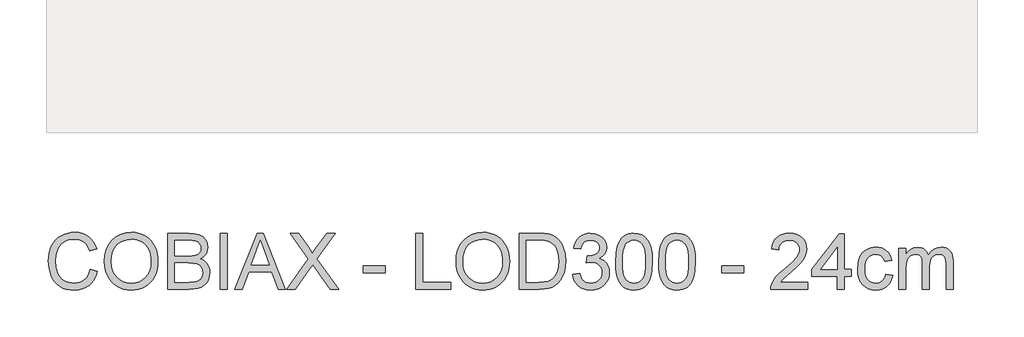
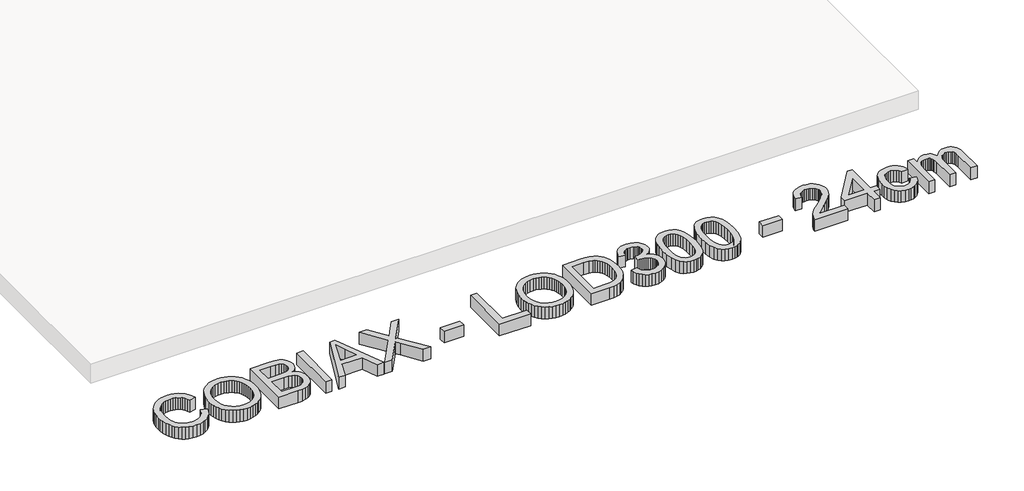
# One storey, part 7 of 18: 1 proxy.
"""IFC4 building model written with IfcOpenShell, lengths in millimetres."""

from ifc_helpers import new_model, si_unit, origin, origin_with_axes, place, context, project, spatial, polyline, outline, extrude, element, save

model = new_model("IFC4")

# Units and contexts
model_context = context("Model", 3, world=origin())
ifc_project = project(units=[si_unit("LENGTHUNIT", "METRE", prefix="MILLI")], contexts=[model_context])

# Site, building, storey
site = spatial("IfcSite", under=ifc_project)
building = spatial("IfcBuilding", under=site)
storey = spatial("IfcBuildingStorey", under=building, Name="COBIAX Slabs", Elevation=0.0)

# Proxy
placement = place(None, origin())
element("IfcBuildingElementProxy", 1, Name="600mm Arial", ObjectType="600mm Arial", at=placement, inside=storey, context=model_context, shape_type="SweptSolid", body=[
    extrude(outline(polyline([(-5201.7846047, -6620.9127725), (-5126.4423721, -6640.3369419), (-5141.35079, -6687.1913125), (-5161.2072206, -6728.13198), (-5186.0116642, -6763.1589445), (-5215.7641205, -6792.2722059), (-5249.7932051, -6815.1590645), (-5287.4275332, -6831.5068207), (-5328.6671048, -6841.3154744), (-5373.5119201, -6844.5850256), (-5419.4557827, -6842.1110192), (-5460.902288, -6834.6889999), (-5497.8514359, -6822.3189678), (-5530.3032264, -6805.0009229), (-5558.7037164, -6782.9923826), (-5583.4989629, -6756.5508642), (-5604.6889658, -6725.6763677), (-5622.2737252, -6690.3688932), (-5636.0830956, -6652.155151), (-5645.9469316, -6612.5618512), (-5651.8652332, -6571.588994), (-5653.8380004, -6529.2365793), (-5651.6077158, -6483.7939559), (-5644.916862, -6441.3495707), (-5633.765439, -6401.9034238), (-5618.1534469, -6365.4555151), (-5598.4303734, -6332.6082514), (-5574.9457065, -6303.9640396), (-5547.6994462, -6279.5228795), (-5516.6915926, -6259.2847713), (-5482.9752077, -6243.4152617), (-5447.6033539, -6232.0798977), (-5410.5760311, -6225.2786793), (-5371.8932393, -6223.0116065), (-5328.8004621, -6225.9454655), (-5289.2853373, -6234.7470422), (-5253.3478649, -6249.4163368), (-5220.9880449, -6269.9533491), (-5192.7393062, -6295.8154534), (-5169.1350776, -6326.4600236), (-5150.1753593, -6361.8870597), (-5135.8601512, -6402.0965618), (-5211.2023838, -6420.0492032), (-5223.0665781, -6390.420907), (-5237.3220054, -6365.1060272), (-5253.9686657, -6344.1045638), (-5273.006559, -6327.4165168), (-5294.5460498, -6314.7015953), (-5318.6975028, -6305.6195086), (-5345.4609179, -6300.1702565), (-5374.8362952, -6298.3538392), (-5408.6354535, -6300.3679931), (-5439.5467382, -6306.4104549), (-5467.5701492, -6316.4812245), (-5492.7056865, -6330.5803019), (-5514.6360519, -6348.0730908), (-5533.0439473, -6368.3249946), (-5547.9293725, -6391.3360134), (-5559.2923276, -6417.1061472), (-5573.6949077, -6472.2516583), (-5578.4957678, -6529.0894265), (-5572.8119909, -6598.6927), (-5565.7072699, -6629.9626696), (-5555.7606605, -6658.8781944), (-5542.8112142, -6684.8644589), (-5526.6979829, -6707.3466473), (-5507.4209663, -6726.3247597), (-5484.9801646, -6741.7987961), (-5460.4654281, -6753.8055448), (-5434.9666074, -6762.3817938), (-5408.4837022, -6767.5275432), (-5381.0167128, -6769.242793), (-5348.2614196, -6766.9067423), (-5318.1272857, -6759.8985903), (-5290.614311, -6748.218337), (-5265.7224955, -6731.8659823), (-5244.0404504, -6710.9151027), (-5226.1567869, -6685.4392745), (-5212.071505, -6655.4384978), (-5201.7846047, -6620.9127725)])), origin_with_axes(), (0.0, 0.0, 1.0), 150.0),
    extrude(outline(polyline([(-5051.1001395, -6541.7445672), (-5046.0785503, -6471.0468447), (-5031.0137825, -6408.4609203), (-5005.9058364, -6353.9867939), (-4989.5856714, -6329.7916549), (-4970.7547117, -6307.6244654), (-4927.6665331, -6270.6063397), (-4878.7474247, -6244.1648213), (-4823.9973868, -6228.2999102), (-4763.4164193, -6223.0116065), (-4722.8666263, -6225.49481), (-4684.3585785, -6232.9444204), (-4647.8922757, -6245.3604378), (-4613.467718, -6262.742862), (-4582.0505956, -6284.5674614), (-4554.6065988, -6310.310004), (-4531.1357275, -6339.9704899), (-4511.6379818, -6373.548919), (-4496.3156967, -6410.2819362), (-4485.3712073, -6449.4061864), (-4478.8045137, -6490.9216695), (-4476.6156158, -6534.8283857), (-4478.9194768, -6579.3145159), (-4485.8310598, -6621.3910191), (-4497.3503648, -6661.0578953), (-4513.4773917, -6698.3151443), (-4533.8304631, -6732.178682), (-4558.0279014, -6761.6644239), (-4586.0697064, -6786.7723701), (-4617.9558784, -6807.5025205), (-4652.4310198, -6823.7261165), (-4688.2397335, -6835.3143993), (-4725.3820195, -6842.267369), (-4763.8578777, -6844.5850256), (-4805.1158434, -6842.0236472), (-4844.129729, -6834.339512), (-4880.8995344, -6821.5326201), (-4915.4252597, -6803.6029713), (-4946.8055939, -6781.2449431), (-4974.1392261, -6755.1529126), (-4997.4261564, -6725.3268798), (-5016.6663847, -6691.7668448), (-5031.7311524, -6655.8201753), (-5042.4917008, -6618.8342393), (-5048.9480298, -6580.8090365), (-5051.1001395, -6541.7445672)]), holes=[polyline([(-4975.7579069, -6542.4803312), (-4971.9917149, -6592.4295091), (-4960.6931392, -6636.7684865), (-4941.8621795, -6675.4972636), (-4915.4988361, -6708.6158402), (-4883.4517158, -6735.140132), (-4847.5694257, -6754.0860548), (-4807.8519657, -6765.4536084), (-4764.299336, -6769.242793), (-4720.0017453, -6765.4168202), (-4679.8152359, -6753.938902), (-4643.7398077, -6734.8090382), (-4611.7754608, -6708.027229), (-4585.6052554, -6674.2096766), (-4566.9122515, -6633.9725834), (-4555.6964492, -6587.3159493), (-4551.9578484, -6534.2397745), (-4553.5581351, -6499.7600345), (-4558.3589951, -6467.5427687), (-4566.3604285, -6437.5879773), (-4577.5624353, -6409.8956601), (-4591.8408552, -6384.8291007), (-4609.0715282, -6362.7515824), (-4629.2544541, -6343.6631054), (-4652.3896331, -6327.5636696), (-4677.7596952, -6314.7843688), (-4704.6472705, -6305.6562968), (-4733.0523591, -6300.1794536), (-4762.9749609, -6298.3538392), (-4805.0146759, -6301.8717107), (-4844.0193644, -6312.4253255), (-4879.9890265, -6330.0146834), (-4912.9236621, -6354.6397844), (-4940.4136442, -6387.4870481), (-4960.0493457, -6429.7428937), (-4971.8307666, -6481.4073214), (-4975.7579069, -6542.4803312)])]), origin_with_axes(), (0.0, 0.0, 1.0), 150.0),
    extrude(outline(polyline([(-4373.020046, -6835.1672465), (-4373.020046, -6232.4293856), (-4143.0202226, -6232.4293856), (-4079.7629135, -6236.8623637), (-4030.3747557, -6250.1612978), (-4010.2975958, -6260.2182718), (-3992.5196984, -6272.6572818), (-3977.0410634, -6287.4783277), (-3963.8616909, -6304.6814095), (-3945.8170791, -6342.3525258), (-3939.8022085, -6381.7894757), (-3944.8605859, -6418.0810345), (-3960.0357182, -6452.2020895), (-3985.43797, -6482.0557135), (-4021.1777058, -6505.5449788), (-3998.438, -6515.2386694), (-3978.4850002, -6527.8386278), (-3961.3187066, -6543.3448538), (-3946.9391192, -6561.7573477), (-3935.576164, -6582.5150893), (-3927.4597675, -6605.0570585), (-3922.5899296, -6629.3832555), (-3920.9666503, -6655.4936801), (-3925.3996283, -6697.524198), (-3938.6985625, -6736.5012954), (-3958.5457961, -6769.6474632), (-3982.6236727, -6794.1851923), (-4012.1094146, -6811.9538926), (-4048.1802442, -6824.7929743), (-4092.013384, -6832.5736785), (-4144.7860562, -6835.1672465), (-4373.020046, -6835.1672465)]), holes=[polyline([(-4297.6778134, -6477.2916416), (-4160.0899472, -6477.2916416), (-4111.9709822, -6475.6729608), (-4079.7445194, -6470.8169185), (-4051.6199409, -6459.6516999), (-4031.4048253, -6442.9314633), (-4019.2095371, -6420.9137259), (-4015.1444411, -6393.8560051), (-4018.9336256, -6367.5892307), (-4030.3011793, -6344.7069706), (-4048.7320672, -6326.8462997), (-4073.7112547, -6315.6442929), (-4112.0445586, -6309.7397869), (-4170.5377958, -6307.7716182), (-4297.6778134, -6307.7716182), (-4297.6778134, -6477.2916416)]), polyline([(-4297.6778134, -6759.8250139), (-4143.1673754, -6759.8250139), (-4087.2493121, -6756.8819579), (-4061.2952374, -6750.3520525), (-4039.9396875, -6740.474421), (-4022.5756574, -6726.3293582), (-4008.5961416, -6706.9971594), (-3999.3806976, -6683.3423471), (-3996.3088829, -6656.2294441), (-3999.9141265, -6624.7387453), (-4010.7298571, -6597.6626304), (-4029.6205976, -6576.4910216), (-4057.4508705, -6562.7138409), (-4096.8694263, -6555.1538659), (-4150.5250153, -6552.6338742), (-4297.6778134, -6552.6338742), (-4297.6778134, -6759.8250139)])]), origin_with_axes(), (0.0, 0.0, 1.0), 150.0),
    extrude(outline(polyline([(-3807.9533014, -6835.1672465), (-3807.9533014, -6232.4293856), (-3732.6110688, -6232.4293856), (-3732.6110688, -6835.1672465), (-3807.9533014, -6835.1672465)])), origin_with_axes(), (0.0, 0.0, 1.0), 150.0),
    extrude(outline(polyline([(-3652.1184882, -6835.1672465), (-3411.5236634, -6232.4293856), (-3347.3650434, -6232.4293856), (-3106.7702186, -6835.1672465), (-3186.3798823, -6835.1672465), (-3255.3945446, -6646.811665), (-3503.641315, -6646.811665), (-3572.5088245, -6835.1672465), (-3652.1184882, -6835.1672465)]), holes=[polyline([(-3475.9765889, -6571.4694324), (-3282.9121179, -6571.4694324), (-3337.2115004, -6423.2865647), (-3379.4443534, -6307.7716182), (-3416.9683169, -6410.3371185), (-3475.9765889, -6571.4694324)])]), origin_with_axes(), (0.0, 0.0, 1.0), 150.0),
    extrude(outline(polyline([(-3092.2020916, -6835.1672465), (-2859.8478234, -6506.7222012), (-3054.5309753, -6232.4293856), (-2964.1791572, -6232.4293856), (-2854.5503227, -6386.7926708), (-2828.3939128, -6425.8985269), (-2817.6149704, -6446.9781652), (-2774.3520477, -6385.7626012), (-2665.9004356, -6232.4293856), (-2574.2242424, -6232.4293856), (-2768.9073942, -6507.605118), (-2536.5531261, -6835.1672465), (-2626.9049441, -6835.1672465), (-2781.7096876, -6616.7924942), (-2813.9361504, -6571.4694324), (-2849.3999748, -6621.2070781), (-3000.5258984, -6835.1672465), (-3092.2020916, -6835.1672465)])), origin_with_axes(), (0.0, 0.0, 1.0), 150.0),
    extrude(outline(polyline([(-2272.8553119, -6656.2294441), (-2272.8553119, -6580.8872115), (-2037.410835, -6580.8872115), (-2037.410835, -6656.2294441), (-2272.8553119, -6656.2294441)])), origin_with_axes(), (0.0, 0.0, 1.0), 150.0),
    extrude(outline(polyline([(-1707.7885673, -6835.1672465), (-1707.7885673, -6232.4293856), (-1632.4463347, -6232.4293856), (-1632.4463347, -6759.8250139), (-1331.0774043, -6759.8250139), (-1331.0774043, -6835.1672465), (-1707.7885673, -6835.1672465)])), origin_with_axes(), (0.0, 0.0, 1.0), 150.0),
    extrude(outline(polyline([(-1274.5707298, -6541.7445672), (-1269.5491406, -6471.0468447), (-1254.4843729, -6408.4609203), (-1229.3764267, -6353.9867939), (-1213.0562617, -6329.7916549), (-1194.2253021, -6307.6244654), (-1151.1371234, -6270.6063397), (-1102.2180151, -6244.1648213), (-1047.4679771, -6228.2999102), (-986.8870096, -6223.0116065), (-946.3372167, -6225.49481), (-907.8291688, -6232.9444204), (-871.362866, -6245.3604378), (-836.9383083, -6262.742862), (-805.5211859, -6284.5674614), (-778.0771891, -6310.310004), (-754.6063178, -6339.9704899), (-735.1085721, -6373.548919), (-719.786287, -6410.2819362), (-708.8417976, -6449.4061864), (-702.275104, -6490.9216695), (-700.0862061, -6534.8283857), (-702.3900671, -6579.3145159), (-709.3016501, -6621.3910191), (-720.8209551, -6661.0578953), (-736.947982, -6698.3151443), (-757.3010534, -6732.178682), (-781.4984917, -6761.6644239), (-809.5402967, -6786.7723701), (-841.4264687, -6807.5025205), (-875.9016102, -6823.7261165), (-911.7103239, -6835.3143993), (-948.8526098, -6842.267369), (-987.328468, -6844.5850256), (-1028.5864337, -6842.0236472), (-1067.6003193, -6834.339512), (-1104.3701247, -6821.5326201), (-1138.89585, -6803.6029713), (-1170.2761842, -6781.2449431), (-1197.6098164, -6755.1529126), (-1220.8967467, -6725.3268798), (-1240.1369751, -6691.7668448), (-1255.2017428, -6655.8201753), (-1265.9622911, -6618.8342393), (-1272.4186201, -6580.8090365), (-1274.5707298, -6541.7445672)]), holes=[polyline([(-1199.2284972, -6542.4803312), (-1195.4623053, -6592.4295091), (-1184.1637295, -6636.7684865), (-1165.3327699, -6675.4972636), (-1138.9694264, -6708.6158402), (-1106.9223061, -6735.140132), (-1071.040016, -6754.0860548), (-1031.3225561, -6765.4536084), (-987.7699264, -6769.242793), (-943.4723356, -6765.4168202), (-903.2858262, -6753.938902), (-867.210398, -6734.8090382), (-835.2460512, -6708.027229), (-809.0758457, -6674.2096766), (-790.3828418, -6633.9725834), (-779.1670395, -6587.3159493), (-775.4284387, -6534.2397745), (-777.0287254, -6499.7600345), (-781.8295855, -6467.5427687), (-789.8310189, -6437.5879773), (-801.0330256, -6409.8956601), (-815.3114455, -6384.8291007), (-832.5421185, -6362.7515824), (-852.7250445, -6343.6631054), (-875.8602234, -6327.5636696), (-901.2302855, -6314.7843688), (-928.1178608, -6305.6562968), (-956.5229494, -6300.1794536), (-986.4455512, -6298.3538392), (-1028.4852662, -6301.8717107), (-1067.4899547, -6312.4253255), (-1103.4596168, -6330.0146834), (-1136.3942524, -6354.6397844), (-1163.8842345, -6387.4870481), (-1183.519936, -6429.7428937), (-1195.3013569, -6481.4073214), (-1199.2284972, -6542.4803312)])]), origin_with_axes(), (0.0, 0.0, 1.0), 150.0),
    extrude(outline(polyline([(-596.4906363, -6835.1672465), (-596.4906363, -6232.4293856), (-388.5637326, -6232.4293856), (-326.4284636, -6234.5998894), (-280.9950372, -6241.1114007), (-232.9496487, -6257.8500315), (-192.4090528, -6284.2271705), (-170.0694186, -6305.7850555), (-150.7280227, -6330.1388435), (-134.3848651, -6357.2885348), (-121.0399457, -6387.2341292), (-110.6748705, -6419.6997153), (-103.2712454, -6454.4093815), (-97.3483452, -6530.5609545), (-101.358259, -6595.2530034), (-113.3880002, -6652.1827421), (-131.7085236, -6700.651195), (-154.5907837, -6739.9593862), (-180.9311345, -6770.9902325), (-209.6259302, -6794.6266507), (-242.5697628, -6812.1562277), (-281.6572248, -6824.8665507), (-326.9618925, -6832.5920726), (-378.5573423, -6835.1672465), (-596.4906363, -6835.1672465)]), holes=[polyline([(-521.1484037, -6759.8250139), (-387.8279686, -6759.8250139), (-332.6824575, -6757.1026871), (-290.8542747, -6748.9357069), (-259.2899995, -6735.8023196), (-234.9362114, -6718.1807721), (-208.7614075, -6685.5680332), (-189.0981148, -6643.3535742), (-176.7924621, -6591.3534542), (-172.6905778, -6529.3837321), (-174.7001332, -6485.6425629), (-180.7287994, -6447.2724708), (-190.7765764, -6414.2734558), (-204.8434642, -6386.645518), (-221.7890286, -6363.7632579), (-240.4728355, -6345.0012761), (-260.8948847, -6330.3595727), (-283.0551764, -6319.8381477), (-326.3916754, -6310.7882506), (-389.8881078, -6307.7716182), (-521.1484037, -6307.7716182), (-521.1484037, -6759.8250139)])]), origin_with_axes(), (0.0, 0.0, 1.0), 150.0),
    extrude(outline(polyline([(-22.0061126, -6675.0650022), (53.33612, -6665.6472231), (70.2035095, -6712.9936359), (81.5756616, -6730.900292), (94.9067854, -6744.9625813), (110.5003835, -6755.5851739), (128.6599585, -6763.1727401), (149.3855104, -6767.7252798), (172.6770392, -6769.242793), (199.9738833, -6767.1550627), (224.3276713, -6760.8918717), (245.7384035, -6750.4532201), (264.2060796, -6735.8391078), (279.0777093, -6718.1439839), (289.7003019, -6698.4622971), (296.0738575, -6676.7940476), (298.198376, -6653.1392353), (296.0922516, -6630.6110616), (289.7738783, -6610.115436), (279.2432562, -6591.6523583), (264.5003852, -6575.2218287), (246.5109557, -6561.7343551), (226.2406577, -6552.1004453), (203.6894914, -6546.3200995), (178.8574567, -6544.3933175), (155.0554917, -6546.4534567), (126.0296022, -6552.6338742), (134.4173117, -6477.2916416), (146.4838412, -6478.1745584), (191.622962, -6472.7666931), (231.9796168, -6456.5430971), (248.5894889, -6444.2742325), (260.4536833, -6429.0991002), (267.5721999, -6411.0177002), (269.9450388, -6390.0300324), (268.2251904, -6372.9924975), (263.0656454, -6357.4908699), (254.4664038, -6343.5251496), (242.4274655, -6331.0953367), (227.6753975, -6320.8912099), (210.9367667, -6313.6025479), (171.4998168, -6307.7716182), (150.8432428, -6309.2431462), (131.9892906, -6313.6577302), (114.9379601, -6321.0153701), (99.6892514, -6331.3160659), (86.6202435, -6344.5598178), (76.1080155, -6360.7466255), (68.1525673, -6379.8764893), (62.7538991, -6401.949409), (-12.5883335, -6392.5316299), (-3.6579981, -6356.5619678), (9.5949508, -6324.878131), (27.1705131, -6297.4801194), (49.0686888, -6274.3679331), (74.5996993, -6256.0198186), (103.0737657, -6242.9140225), (134.4908881, -6235.0505448), (168.8510665, -6232.4293856), (216.2158734, -6237.5981277), (259.7179193, -6253.1043538), (296.3957542, -6277.5685064), (323.2879281, -6309.6110282), (339.7874355, -6346.5279864), (345.2872714, -6385.6154484), (340.063347, -6422.0357659), (324.391574, -6455.0715691), (298.4926816, -6483.2145417), (262.5873988, -6504.9563677), (287.695345, -6512.8106482), (309.7498706, -6524.012655), (328.7509757, -6538.5623879), (344.6986602, -6556.459847), (357.3170126, -6577.2635738), (366.3301215, -6600.53211), (371.7379868, -6626.2654556), (373.5406086, -6654.4636105), (369.935365, -6692.6865498), (359.1196344, -6727.8928567), (341.0934166, -6760.0825313), (315.8567117, -6789.2555735), (285.110974, -6813.4622088), (250.5576576, -6830.7526626), (212.1967626, -6841.1269348), (170.0282889, -6844.5850256), (131.9157142, -6841.6327726), (97.1876538, -6832.7760136), (65.8441078, -6818.0147485), (37.8850762, -6797.3489774), (14.4417961, -6771.9927109), (-3.3544955, -6743.1599595), (-15.5037984, -6710.8507233), (-22.0061126, -6675.0650022)])), origin_with_axes(), (0.0, 0.0, 1.0), 150.0),
    extrude(outline(polyline([(439.4650621, -6538.6543584), (445.0016862, -6442.1773052), (451.9224662, -6401.2642288), (461.6115582, -6365.2347859), (474.0275756, -6333.7946709), (489.1291315, -6306.6495782), (506.9162259, -6283.7995077), (527.388859, -6265.2444596), (550.6160084, -6250.8878647), (576.6666522, -6240.6331541), (605.5407903, -6234.4803277), (637.2384227, -6232.4293856), (683.6651305, -6237.285428), (725.235796, -6251.853555), (760.0006445, -6275.5635496), (786.0099016, -6307.8451946), (805.6548001, -6348.4225787), (821.3265731, -6397.0197903), (831.5904808, -6458.731995), (835.0117833, -6538.6543584), (829.5303416, -6634.5795887), (822.6785395, -6675.3547093), (813.0860164, -6711.3381669), (800.7665681, -6742.7920775), (785.7339901, -6769.978557), (767.9882823, -6792.8976053), (747.5294449, -6811.5492224), (724.2747043, -6826.0023863), (698.141287, -6836.3260748), (669.1291932, -6842.5202879), (637.2384227, -6844.5850256), (595.7413337, -6840.9981761), (558.9531342, -6830.2376278), (526.8738242, -6812.3033805), (499.5034037, -6787.1954344), (473.2366293, -6741.8079932), (454.4746475, -6685.2553335), (443.2174585, -6617.5374552), (439.4650621, -6538.6543584)]), holes=[polyline([(514.8072947, -6538.5072056), (517.0145867, -6604.0039963), (523.6364626, -6657.0203904), (534.6729225, -6697.5563877), (550.1239663, -6725.6119884), (568.8123716, -6744.7004654), (589.5609162, -6758.3350918), (612.3695999, -6766.5158677), (637.2384227, -6769.242793), (662.1072456, -6766.5066706), (684.9159293, -6758.2983036), (705.6644738, -6744.6176919), (724.3528792, -6725.4648356), (739.803923, -6697.3632497), (750.8403828, -6656.8364494), (757.4622588, -6603.8844347), (759.6695507, -6538.5072056), (757.5358352, -6474.7440588), (751.1346884, -6422.6611653), (740.4661106, -6382.2585252), (725.5301016, -6353.5361384), (707.1543959, -6333.5141608), (686.1667281, -6319.2127483), (662.5670981, -6310.6319007), (636.3555059, -6307.7716182), (611.6154418, -6310.2916099), (589.1930342, -6317.8515849), (569.0882831, -6330.4515432), (551.3011887, -6348.0914849), (535.3351101, -6379.3614545), (523.9307682, -6421.5207311), (517.0881631, -6474.5693149), (514.8072947, -6538.5072056)])]), origin_with_axes(), (0.0, 0.0, 1.0), 150.0),
    extrude(outline(polyline([(900.9362369, -6538.6543584), (906.4728609, -6442.1773052), (913.3936409, -6401.2642288), (923.082733, -6365.2347859), (935.4987503, -6333.7946709), (950.6003062, -6306.6495782), (968.3874007, -6283.7995077), (988.8600337, -6265.2444596), (1012.0871832, -6250.8878647), (1038.137827, -6240.6331541), (1067.0119651, -6234.4803277), (1098.7095975, -6232.4293856), (1145.1363053, -6237.285428), (1186.7069707, -6251.853555), (1221.4718193, -6275.5635496), (1247.4810763, -6307.8451946), (1267.1259749, -6348.4225787), (1282.7977479, -6397.0197903), (1293.0616555, -6458.731995), (1296.4829581, -6538.6543584), (1291.0015164, -6634.5795887), (1284.1497142, -6675.3547093), (1274.5571912, -6711.3381669), (1262.2377429, -6742.7920775), (1247.2051648, -6769.978557), (1229.4594571, -6792.8976053), (1209.0006196, -6811.5492224), (1185.745879, -6826.0023863), (1159.6124618, -6836.3260748), (1130.6003679, -6842.5202879), (1098.7095975, -6844.5850256), (1057.2125084, -6840.9981761), (1020.4243089, -6830.2376278), (988.3449989, -6812.3033805), (960.9745785, -6787.1954344), (934.707804, -6741.8079932), (915.9458223, -6685.2553335), (904.6886332, -6617.5374552), (900.9362369, -6538.6543584)]), holes=[polyline([(976.2784695, -6538.5072056), (978.4857615, -6604.0039963), (985.1076374, -6657.0203904), (996.1440972, -6697.5563877), (1011.595141, -6725.6119884), (1030.2835464, -6744.7004654), (1051.0320909, -6758.3350918), (1073.8407746, -6766.5158677), (1098.7095975, -6769.242793), (1123.5784204, -6766.5066706), (1146.3871041, -6758.2983036), (1167.1356486, -6744.6176919), (1185.8240539, -6725.4648356), (1201.2750977, -6697.3632497), (1212.3115576, -6656.8364494), (1218.9334335, -6603.8844347), (1221.1407255, -6538.5072056), (1219.0070099, -6474.7440588), (1212.6058632, -6422.6611653), (1201.9372853, -6382.2585252), (1187.0012763, -6353.5361384), (1168.6255707, -6333.5141608), (1147.6379028, -6319.2127483), (1124.0382729, -6310.6319007), (1097.8266807, -6307.7716182), (1073.0866165, -6310.2916099), (1050.6642089, -6317.8515849), (1030.5594579, -6330.4515432), (1012.7723634, -6348.0914849), (996.8062848, -6379.3614545), (985.401943, -6421.5207311), (978.5593379, -6474.5693149), (976.2784695, -6538.5072056)])]), origin_with_axes(), (0.0, 0.0, 1.0), 150.0),
    extrude(outline(polyline([(1579.0163304, -6656.2294441), (1579.0163304, -6580.8872115), (1814.4608073, -6580.8872115), (1814.4608073, -6656.2294441), (1579.0163304, -6656.2294441)])), origin_with_axes(), (0.0, 0.0, 1.0), 150.0),
    extrude(outline(polyline([(2501.9586799, -6759.8250139), (2501.9586799, -6835.1672465), (2106.4119587, -6835.1672465), (2108.0674277, -6808.6429547), (2114.5053626, -6783.2223088), (2133.0834033, -6742.6265306), (2160.2698828, -6703.2447631), (2199.5964681, -6662.0235855), (2254.5948263, -6615.9095774), (2335.8967473, -6543.6943417), (2384.6778998, -6490.3882406), (2398.905736, -6468.6096265), (2409.0684761, -6447.125318), (2415.1661202, -6425.9353151), (2417.1986682, -6405.0396178), (2415.2810833, -6385.3809236), (2409.5283286, -6367.3133192), (2399.9404041, -6350.8368043), (2386.5173098, -6335.9513791), (2370.0040067, -6323.6227337), (2351.145456, -6314.8165584), (2329.9416575, -6309.5328533), (2306.3926113, -6307.7716182), (2281.5835692, -6309.4914666), (2259.3956864, -6314.6510115), (2239.8289627, -6323.2502532), (2222.8833983, -6335.2891915), (2209.1751955, -6350.3631562), (2199.3205566, -6368.0674772), (2193.3194815, -6388.4021545), (2191.1719704, -6411.3671881), (2115.8297378, -6401.949409), (2122.3090594, -6363.0550851), (2134.0950788, -6329.0719858), (2151.187796, -6300.0001111), (2173.587211, -6275.8394611), (2200.778289, -6256.8475531), (2232.2459951, -6243.2819045), (2267.9903295, -6235.1425153), (2308.011292, -6232.4293856), (2348.3909395, -6235.446018), (2384.3284119, -6244.4959151), (2415.8237092, -6259.5790769), (2442.8768315, -6280.6955034), (2464.6048618, -6306.2816962), (2480.1248835, -6334.7741567), (2489.4368965, -6366.172885), (2492.5409008, -6400.477881), (2489.1931747, -6436.5119224), (2479.1499962, -6471.9205645), (2461.3261135, -6507.9362118), (2434.6362748, -6545.7912691), (2392.090722, -6590.9855722), (2326.6996974, -6649.018957), (2240.0266993, -6721.49171), (2206.034403, -6759.8250139), (2501.9586799, -6759.8250139)])), origin_with_axes(), (0.0, 0.0, 1.0), 150.0),
    extrude(outline(polyline([(2822.1631685, -6835.1672465), (2822.1631685, -6693.9005604), (2549.0475753, -6693.9005604), (2549.0475753, -6618.5583278), (2840.9987266, -6241.8471647), (2897.5054011, -6241.8471647), (2897.5054011, -6618.5583278), (2972.8476337, -6618.5583278), (2972.8476337, -6693.9005604), (2897.5054011, -6693.9005604), (2897.5054011, -6835.1672465), (2822.1631685, -6835.1672465)]), holes=[polyline([(2822.1631685, -6618.5583278), (2822.1631685, -6385.7626012), (2641.7538381, -6618.5583278), (2822.1631685, -6618.5583278)])]), origin_with_axes(), (0.0, 0.0, 1.0), 150.0),
    extrude(outline(polyline([(3340.1410177, -6675.0650022), (3415.4832503, -6684.4827813), (3407.2886789, -6720.0339776), (3394.4771884, -6751.4924867), (3377.0487789, -6778.8583086), (3355.0034503, -6802.1314434), (3329.2701047, -6820.7048856), (3300.7776442, -6833.97163), (3269.5260687, -6841.9316767), (3235.5153783, -6844.5850256), (3193.2595326, -6840.883213), (3155.3722856, -6829.7777753), (3121.8536373, -6811.2687124), (3092.7035877, -6785.3560244), (3069.1085563, -6752.5271548), (3052.2549624, -6713.2695474), (3042.142806, -6667.5832021), (3038.7720873, -6615.468119), (3044.5294405, -6548.4216254), (3051.726132, -6518.2507033), (3061.8015001, -6490.3146642), (3074.8245228, -6465.1745284), (3090.8641778, -6443.3913158), (3109.9204651, -6424.9650263), (3131.9933848, -6409.8956601), (3156.085057, -6398.1786186), (3181.1976017, -6389.8093032), (3207.3310189, -6384.7877139), (3234.4853087, -6383.1138508), (3267.9119865, -6385.4131133), (3298.1472879, -6392.3109007), (3325.1912131, -6403.8072131), (3349.043762, -6419.9020504), (3369.3002643, -6440.2275306), (3385.55605, -6464.4157718), (3397.811119, -6492.4667739), (3406.0654712, -6524.380537), (3330.7232386, -6533.7983161), (3317.0564225, -6500.9280598), (3295.7744491, -6477.365218), (3268.0545407, -6463.1833671), (3235.0739199, -6458.4560835), (3209.4739315, -6460.7829371), (3186.3847378, -6467.7634979), (3165.8063387, -6479.397766), (3147.7387342, -6495.6857414), (3133.0280529, -6517.004503), (3122.5204235, -6543.7311299), (3116.2158458, -6575.8656222), (3114.1143199, -6613.4079798), (3116.1698605, -6651.515956), (3122.3364825, -6684.0229288), (3132.6141857, -6710.9288982), (3147.0029702, -6732.2338643), (3164.7118898, -6748.4252706), (3184.949998, -6759.9905608), (3207.717295, -6766.9297349), (3233.0137807, -6769.242793), (3272.0276663, -6763.4670457), (3288.8996543, -6756.2473615), (3304.0150058, -6746.1398037), (3316.9506564, -6733.0340076), (3327.283542, -6716.8196087), (3335.0136624, -6697.4966069), (3340.1410177, -6675.0650022)])), origin_with_axes(), (0.0, 0.0, 1.0), 150.0),
    extrude(outline(polyline([(3481.4077038, -6835.1672465), (3481.4077038, -6392.5316299), (3556.7499365, -6392.5316299), (3556.7499365, -6465.372265), (3579.4114674, -6431.9133975), (3608.5477214, -6405.7018054), (3643.1654171, -6388.7608395), (3682.2712732, -6383.1138508), (3724.1730325, -6388.8712041), (3742.0061122, -6396.0678956), (3757.7606586, -6406.1432637), (3782.8502107, -6433.7895957), (3799.2577477, -6470.6697657), (3826.7201386, -6432.364053), (3858.0452905, -6405.0028296), (3893.2332033, -6388.5860955), (3932.2838771, -6383.1138508), (3962.4456022, -6385.3901207), (3988.9193103, -6392.2189302), (4011.7050014, -6403.6002795), (4030.8026754, -6419.5341684), (4045.8996328, -6440.204538), (4056.6831738, -6465.7953293), (4063.1532984, -6496.3065422), (4065.3100066, -6531.7381769), (4065.3100066, -6835.1672465), (3989.967774, -6835.1672465), (3989.967774, -6564.1117925), (3988.2203345, -6526.5326467), (3982.9780161, -6501.2039713), (3973.1555668, -6483.8583352), (3957.6677348, -6470.2283073), (3937.7469248, -6461.3991394), (3914.6255414, -6458.4560835), (3893.2745901, -6460.3414787), (3873.809034, -6465.9976644), (3856.2288732, -6475.4246405), (3840.5341075, -6488.6224071), (3827.626048, -6505.9772402), (3818.4060055, -6527.875416), (3812.87398, -6554.3169344), (3811.0299715, -6585.3017954), (3811.0299715, -6835.1672465), (3735.6877389, -6835.1672465), (3735.6877389, -6555.724083), (3731.3283373, -6513.1233479), (3725.8790852, -6496.4031113), (3718.2501323, -6482.7362951), (3708.137976, -6472.1137025), (3695.2391135, -6464.5261364), (3679.553545, -6459.9735967), (3661.0812703, -6458.4560835), (3632.0553809, -6462.5027854), (3605.3103598, -6474.6428912), (3583.2374401, -6494.5820954), (3568.2278547, -6522.0260922), (3559.619416, -6560.1018787), (3556.7499365, -6611.9364518), (3556.7499365, -6835.1672465), (3481.4077038, -6835.1672465)])), origin_with_axes(), (0.0, 0.0, 1.0), 150.0),
])

save(model, "model.ifc")
